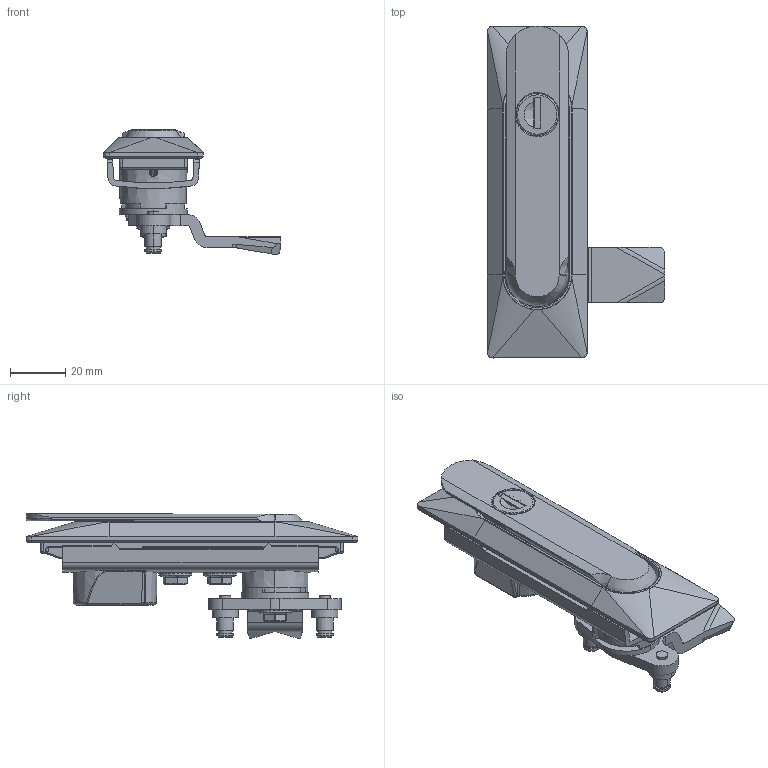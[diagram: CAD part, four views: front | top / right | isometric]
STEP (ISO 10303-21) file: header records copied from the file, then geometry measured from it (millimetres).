
FILE_DESCRIPTION (( 'STEP AP203' ), '1' );
FILE_NAME ('MS861Z1B140108+MS861-4平面锁.STEP', '2024-08-05T09:04:26', ( 'SJ' ), ( '' ), 'SwSTEP 2.0', 'SolidWorks 2020', '' );
FILE_SCHEMA (( 'CONFIG_CONTROL_DESIGN' ));
Length unit declared in the file: millimetre
Products named in the file (16): MS741波形垫圈; XIAOZI_861-2.STEP; PN0012; S3B4508; O-XINGQUAN.STEP; DIEXINGLUOSHUANG-M5X10.STEP; TIAOZHENGDIAN.STEP; 846XIAOMAOGAI.STEP; YABAN-861-5; 846HUABAN.STEP; 8SJ-SW-0003; DINGWEIJIAN.STEP; SHOUBING_861-3.STEP; 8SJ.MS861-4.0010.STEP; MS861-2蛌粣; MS861Z1B140108+MS861-4平面锁
Assembly tree (17 placements, depth 2):
  MS861Z1B140108+MS861-4平面锁
    846HUABAN.STEP
    846XIAOMAOGAI.STEP
    8SJ.MS861-4.0010.STEP
    DINGWEIJIAN.STEP
    8SJ-SW-0003
    MS861-2蛌粣
    XIAOZI_861-2.STEP
    SHOUBING_861-3.STEP
    TIAOZHENGDIAN.STEP
    O-XINGQUAN.STEP
    DIEXINGLUOSHUANG-M5X10.STEP  x2
    MS741波形垫圈
    YABAN-861-5
    S3B4508
    PN0012  x2
Bounding box: 64 x 120 x 44.96 mm (x, y, z)
Volume: 72746.8 mm3; surface area: 44846.9 mm2
Topology: 15 solids, 20 shells, 2848 faces, 7443 edges, 4364 vertices
Faces by surface type: bspline 1136, plane 925, cylinder 676, cone 78, torus 33
Entity records: 109249 total; most frequent: CARTESIAN_POINT 58753, ORIENTED_EDGE 12146, DIRECTION 7405, EDGE_CURVE 6075, VERTEX_POINT 3753, EDGE_LOOP 2496, AXIS2_PLACEMENT_3D 2478, LINE 2449
